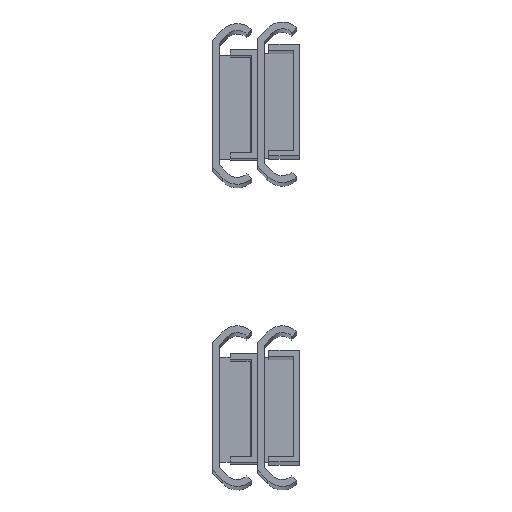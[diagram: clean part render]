
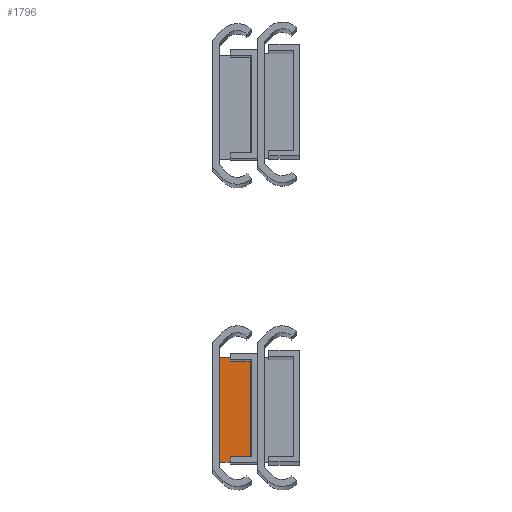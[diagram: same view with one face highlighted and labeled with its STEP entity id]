
A CAD part, top view. The second image highlights one B-rep face of the part: STEP entity #1796.
In plain terms, the highlighted planar face has unit normal (0, 0, 1).
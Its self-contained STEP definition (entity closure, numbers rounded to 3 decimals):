
#1435=CARTESIAN_POINT('',(-4.884,-12.567,1.5));
#1436=VERTEX_POINT('',#1435);
#1443=CARTESIAN_POINT('',(-4.884,10.433,1.5));
#1444=VERTEX_POINT('',#1443);
#1445=CARTESIAN_POINT('',(-4.884,-12.567,1.5));
#1446=DIRECTION('',(0.0,1.0,0.0));
#1447=VECTOR('',#1446,23.0);
#1448=LINE('',#1445,#1447);
#1449=EDGE_CURVE('',#1436,#1444,#1448,.T.);
#1722=CARTESIAN_POINT('',(-2.484,10.433,1.5));
#1723=VERTEX_POINT('',#1722);
#1732=CARTESIAN_POINT('',(-4.884,10.433,1.5));
#1733=DIRECTION('',(1.0,0.0,0.0));
#1734=VECTOR('',#1733,2.4);
#1735=LINE('',#1732,#1734);
#1736=EDGE_CURVE('',#1444,#1723,#1735,.T.);
#1741=CARTESIAN_POINT('',(-4.884,-1.067,1.5));
#1742=DIRECTION('',(0.0,0.0,1.0));
#1743=DIRECTION('',(1.0,0.0,0.0));
#1744=AXIS2_PLACEMENT_3D('',#1741,#1742,#1743);
#1745=PLANE('',#1744);
#1746=CARTESIAN_POINT('',(-2.484,-11.767,1.5));
#1747=VERTEX_POINT('',#1746);
#1748=CARTESIAN_POINT('',(1.866,-11.767,1.5));
#1749=VERTEX_POINT('',#1748);
#1750=CARTESIAN_POINT('',(-2.484,-11.767,1.5));
#1751=DIRECTION('',(1.0,0.0,0.0));
#1752=VECTOR('',#1751,4.35);
#1753=LINE('',#1750,#1752);
#1754=EDGE_CURVE('',#1747,#1749,#1753,.T.);
#1755=ORIENTED_EDGE('',*,*,#1754,.T.);
#1756=CARTESIAN_POINT('',(1.866,9.633,1.5));
#1757=VERTEX_POINT('',#1756);
#1758=CARTESIAN_POINT('',(1.866,-11.767,1.5));
#1759=DIRECTION('',(0.0,1.0,0.0));
#1760=VECTOR('',#1759,21.4);
#1761=LINE('',#1758,#1760);
#1762=EDGE_CURVE('',#1749,#1757,#1761,.T.);
#1763=ORIENTED_EDGE('',*,*,#1762,.T.);
#1764=CARTESIAN_POINT('',(-2.484,9.633,1.5));
#1765=VERTEX_POINT('',#1764);
#1766=CARTESIAN_POINT('',(1.866,9.633,1.5));
#1767=DIRECTION('',(-1.0,0.0,0.0));
#1768=VECTOR('',#1767,4.35);
#1769=LINE('',#1766,#1768);
#1770=EDGE_CURVE('',#1757,#1765,#1769,.T.);
#1771=ORIENTED_EDGE('',*,*,#1770,.T.);
#1772=CARTESIAN_POINT('',(-2.484,9.633,1.5));
#1773=DIRECTION('',(0.0,1.0,0.0));
#1774=VECTOR('',#1773,0.8);
#1775=LINE('',#1772,#1774);
#1776=EDGE_CURVE('',#1765,#1723,#1775,.T.);
#1777=ORIENTED_EDGE('',*,*,#1776,.T.);
#1778=ORIENTED_EDGE('',*,*,#1736,.F.);
#1779=ORIENTED_EDGE('',*,*,#1449,.F.);
#1780=CARTESIAN_POINT('',(-2.484,-12.567,1.5));
#1781=VERTEX_POINT('',#1780);
#1782=CARTESIAN_POINT('',(-4.884,-12.567,1.5));
#1783=DIRECTION('',(1.0,0.0,0.0));
#1784=VECTOR('',#1783,2.4);
#1785=LINE('',#1782,#1784);
#1786=EDGE_CURVE('',#1436,#1781,#1785,.T.);
#1787=ORIENTED_EDGE('',*,*,#1786,.T.);
#1788=CARTESIAN_POINT('',(-2.484,-12.567,1.5));
#1789=DIRECTION('',(0.0,1.0,0.0));
#1790=VECTOR('',#1789,0.8);
#1791=LINE('',#1788,#1790);
#1792=EDGE_CURVE('',#1781,#1747,#1791,.T.);
#1793=ORIENTED_EDGE('',*,*,#1792,.T.);
#1794=EDGE_LOOP('',(#1755,#1763,#1771,#1777,#1778,#1779,#1787,#1793));
#1795=FACE_OUTER_BOUND('',#1794,.T.);
#1796=ADVANCED_FACE('',(#1795),#1745,.T.);
